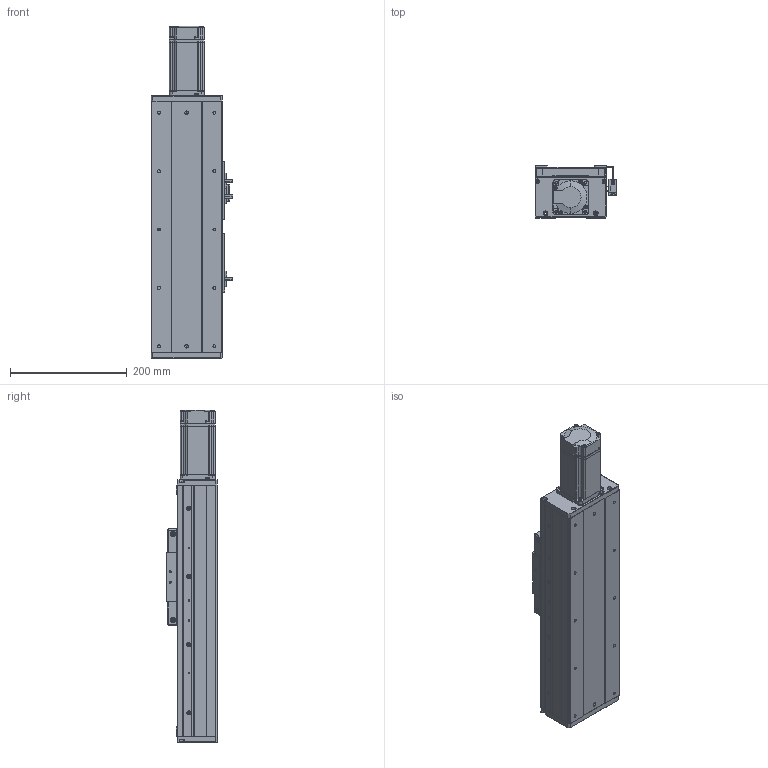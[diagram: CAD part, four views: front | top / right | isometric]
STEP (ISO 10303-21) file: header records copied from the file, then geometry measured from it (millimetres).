
FILE_DESCRIPTION (( 'STEP AP203' ), '1' );
FILE_NAME ('RY120F-L1620-300-MK.SLDASM_150.step', '2021-03-02T06:01:47', ( '盈信电脑' ), ( '东莞市道滘镇水果街19号' ), 'SwSTEP 2.0', 'SolidWorks 2012', '' );
FILE_SCHEMA (( 'CONFIG_CONTROL_DESIGN' ));
Length unit declared in the file: millimetre
Products named in the file (19): RY120F-L1620-300-MK.SLDASM_150; FY120F詩湍揤踡輸; 滅袉蝶18-28; RY120F-臏賑輸 16蹟譫; RY80俋离覜茼え; 覜茼ん672; RY120F-詩湍幗謫粣; 672嫖萇羲壽假蚾釱; RY120F綴裔啣(臏璃ㄘ; RY120F祥凄詩滅鳥裔; 滅袉蝶18-24; RY120F眻蟀ヶ裔啣; 絳寢賑輸EGH15; RY120F-臏賑輸奻釱; 15; 侂狟400W侜督萇儂; RY120F-300-倰第菁釱_150; RY120F-300-倰第裔啣_150; RY120F滅鳥詩湍-300-MK_150
Assembly tree (25 placements, depth 3):
  RY120F-L1620-300-MK.SLDASM_150
    RY120F-300-倰第菁釱_150
    RY120F-300-倰第裔啣_150  x2
    RY120F滅鳥詩湍-300-MK_150
    絳寢賑輸EGH15  x2
    RY120F-臏賑輸奻釱
    侂狟400W侜督萇儂
      15
    RY120F眻蟀ヶ裔啣
    RY120F祥凄詩滅鳥裔
    滅袉蝶18-24
    RY120F綴裔啣(臏璃ㄘ
    RY120F-詩湍幗謫粣
    覜茼ん672  x3
    672嫖萇羲壽假蚾釱  x2
    RY80俋离覜茼え
    FY120F詩湍揤踡輸  x2
    RY120F-臏賑輸 16蹟譫
    滅袉蝶18-28  x2
Bounding box: 140.35 x 89 x 568.5 mm (x, y, z)
Volume: 2125706.1 mm3; surface area: 698062.6 mm2
Topology: 24 solids, 24 shells, 2049 faces, 5469 edges, 3533 vertices
Faces by surface type: plane 966, cylinder 890, cone 175, bspline 18
Entity records: 54258 total; most frequent: CARTESIAN_POINT 9665, DIRECTION 9191, ORIENTED_EDGE 8606, EDGE_CURVE 4303, AXIS2_PLACEMENT_3D 3297, VERTEX_POINT 2817, LINE 2597, VECTOR 2597
